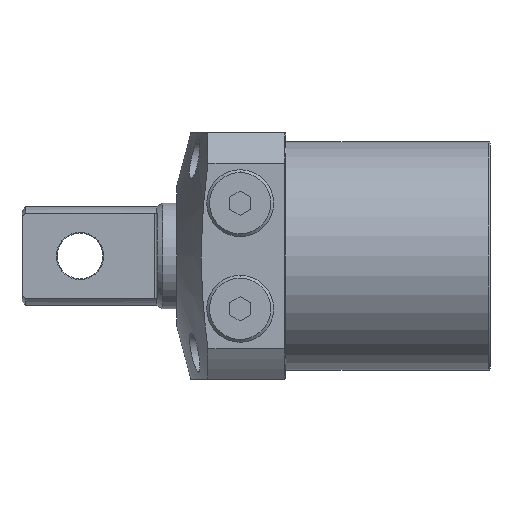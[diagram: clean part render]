
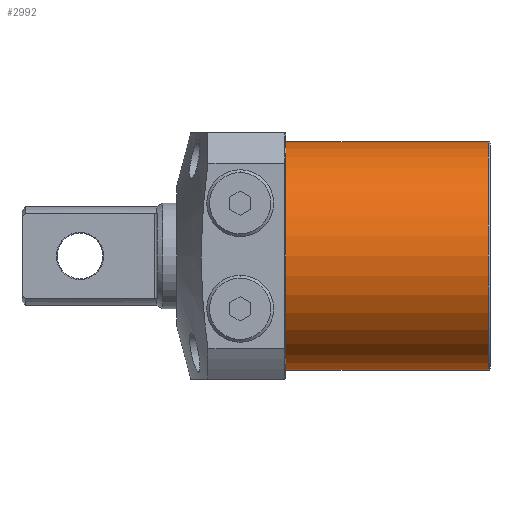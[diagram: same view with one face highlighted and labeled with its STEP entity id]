
A CAD part, left-side view. The second image highlights one B-rep face of the part: STEP entity #2992.
In plain terms, the highlighted cylindrical face has radius 32.5 mm (diameter 65 mm), a partial arc.
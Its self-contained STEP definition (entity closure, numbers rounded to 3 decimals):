
#60 = DIRECTION ( 'NONE',  ( 0., 0., -1. ) ) ;
#98 = CIRCLE ( 'NONE', #4139, 32.5 ) ;
#316 = EDGE_CURVE ( 'NONE', #748, #2764, #3835, .T. ) ;
#647 = ORIENTED_EDGE ( 'NONE', *, *, #2791, .T. ) ;
#748 = VERTEX_POINT ( 'NONE', #3056 ) ;
#843 = DIRECTION ( 'NONE',  ( 0., 0., 1. ) ) ;
#940 = EDGE_CURVE ( 'NONE', #4664, #5328, #5208, .T. ) ;
#1154 = FACE_OUTER_BOUND ( 'NONE', #2788, .T. ) ;
#1429 = ORIENTED_EDGE ( 'NONE', *, *, #316, .F. ) ;
#1522 = CARTESIAN_POINT ( 'NONE',  ( 63., 0., 32.5 ) ) ;
#1612 = CARTESIAN_POINT ( 'NONE',  ( 63., 0., -32.5 ) ) ;
#2168 = CYLINDRICAL_SURFACE ( 'NONE', #2589, 32.5 ) ;
#2349 = EDGE_CURVE ( 'NONE', #748, #4664, #2446, .T. ) ;
#2365 = DIRECTION ( 'NONE',  ( 1., 0., 0. ) ) ;
#2446 = CIRCLE ( 'NONE', #2811, 32.5 ) ;
#2491 = CARTESIAN_POINT ( 'NONE',  ( 0., 0., 32.5 ) ) ;
#2589 = AXIS2_PLACEMENT_3D ( 'NONE', #3423, #2989, #843 ) ;
#2611 = DIRECTION ( 'NONE',  ( -1., 0., 0. ) ) ;
#2764 = VERTEX_POINT ( 'NONE', #5244 ) ;
#2788 = EDGE_LOOP ( 'NONE', ( #1429, #3400, #4080, #647 ) ) ;
#2791 = EDGE_CURVE ( 'NONE', #5328, #2764, #98, .T. ) ;
#2811 = AXIS2_PLACEMENT_3D ( 'NONE', #5167, #2611, #60 ) ;
#2989 = DIRECTION ( 'NONE',  ( -1., 0., 0. ) ) ;
#2992 = ADVANCED_FACE ( 'NONE', ( #1154 ), #2168, .T. ) ;
#3004 = CARTESIAN_POINT ( 'NONE',  ( 57.5, 0., 32.5 ) ) ;
#3056 = CARTESIAN_POINT ( 'NONE',  ( 57.5, 0., -32.5 ) ) ;
#3400 = ORIENTED_EDGE ( 'NONE', *, *, #2349, .T. ) ;
#3423 = CARTESIAN_POINT ( 'NONE',  ( 63., 0., 0. ) ) ;
#3746 = DIRECTION ( 'NONE',  ( -1., 0., 0. ) ) ;
#3835 = LINE ( 'NONE', #1612, #4987 ) ;
#4080 = ORIENTED_EDGE ( 'NONE', *, *, #940, .T. ) ;
#4090 = VECTOR ( 'NONE', #4523, 1000. ) ;
#4139 = AXIS2_PLACEMENT_3D ( 'NONE', #4912, #2365, #5327 ) ;
#4523 = DIRECTION ( 'NONE',  ( -1., 0., 0. ) ) ;
#4664 = VERTEX_POINT ( 'NONE', #3004 ) ;
#4912 = CARTESIAN_POINT ( 'NONE',  ( 0., 0., 0. ) ) ;
#4987 = VECTOR ( 'NONE', #3746, 1000. ) ;
#5167 = CARTESIAN_POINT ( 'NONE',  ( 57.5, 0., 0. ) ) ;
#5208 = LINE ( 'NONE', #1522, #4090 ) ;
#5244 = CARTESIAN_POINT ( 'NONE',  ( 0., 0., -32.5 ) ) ;
#5327 = DIRECTION ( 'NONE',  ( 0., 0., -1. ) ) ;
#5328 = VERTEX_POINT ( 'NONE', #2491 ) ;
